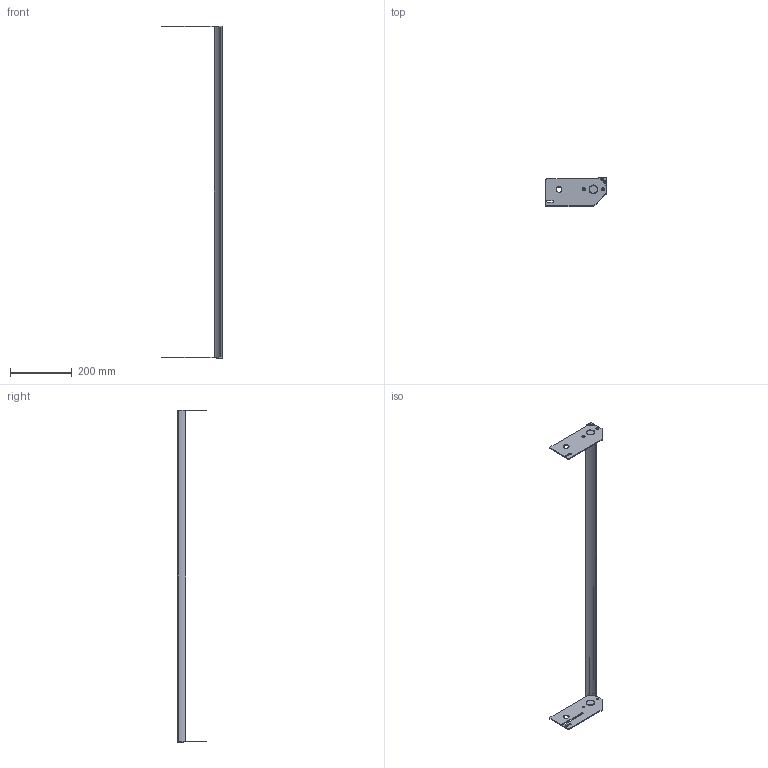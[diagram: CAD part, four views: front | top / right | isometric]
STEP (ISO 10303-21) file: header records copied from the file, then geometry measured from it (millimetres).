
FILE_DESCRIPTION((''),'2;1');
FILE_NAME('27M3301-40_ASM','2022-09-23T',('james.horst'),(''),'PRO/ENGINEER BY PARAMETRIC TECHNOLOGY CORPORATION, 2012420','PRO/ENGINEER BY PARAMETRIC TECHNOLOGY CORPORATION, 2012420','');
FILE_SCHEMA(('CONFIG_CONTROL_DESIGN'));
Length unit declared in the file: inch
Products named in the file (8): 350539-36; 350538_1_1; 350537_1_1; 9304XXM_930410M_1_1; 351040-30_ASM_1_ASM_1_ASM; 27M3301-30_ASM_1_ASM_1_ASM; 27M3301-36_ASM_1_ASM; 27M3301-40_ASM
Assembly tree (10 placements, depth 5):
  27M3301-40_ASM
    27M3301-36_ASM_1_ASM
      27M3301-30_ASM_1_ASM_1_ASM
        351040-30_ASM_1_ASM_1_ASM
          350539-36
          350538_1_1
          350537_1_1
          9304XXM_930410M_1_1  x4
Bounding box: 196.06 x 92.74 x 1079.14 mm (x, y, z)
Volume: 402003.1 mm3; surface area: 188669.4 mm2
Topology: 7 solids, 11 shells, 227 faces, 565 edges, 356 vertices
Faces by surface type: cylinder 87, plane 80, cone 60
Entity records: 5413 total; most frequent: CARTESIAN_POINT 996, DIRECTION 974, ORIENTED_EDGE 832, EDGE_CURVE 424, AXIS2_PLACEMENT_3D 380, VERTEX_POINT 278, VECTOR 214, LINE 214
